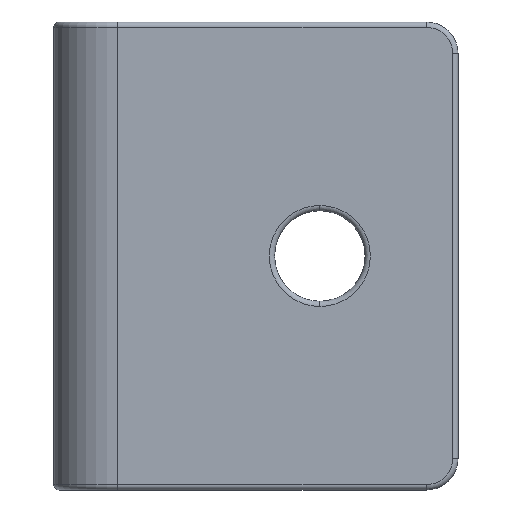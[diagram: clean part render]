
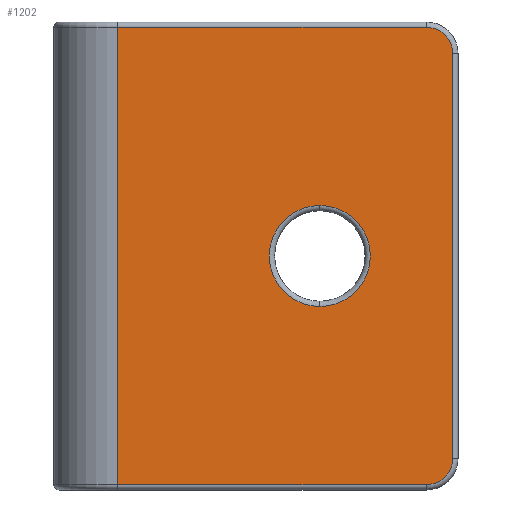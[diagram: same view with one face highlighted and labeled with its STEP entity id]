
A CAD part, front view. The second image highlights one B-rep face of the part: STEP entity #1202.
In plain terms, the highlighted planar face has unit normal (0, -1, 0).
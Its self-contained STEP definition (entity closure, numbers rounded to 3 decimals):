
#17 = VERTEX_POINT ( 'NONE', #709 ) ;
#38 = EDGE_CURVE ( 'NONE', #734, #1065, #882, .T. ) ;
#52 = VECTOR ( 'NONE', #1773, 1000. ) ;
#54 = ORIENTED_EDGE ( 'NONE', *, *, #888, .T. ) ;
#157 = EDGE_CURVE ( 'NONE', #1108, #379, #1544, .T. ) ;
#206 = ORIENTED_EDGE ( 'NONE', *, *, #157, .T. ) ;
#227 = VERTEX_POINT ( 'NONE', #581 ) ;
#256 = CARTESIAN_POINT ( 'NONE',  ( -16.301, -6.074, -44. ) ) ;
#265 = CARTESIAN_POINT ( 'NONE',  ( -10.301, -6.074, -0.5 ) ) ;
#315 = CARTESIAN_POINT ( 'NONE',  ( 21.199, -6.074, -3. ) ) ;
#352 = DIRECTION ( 'NONE',  ( 0., 0., -1. ) ) ;
#360 = ORIENTED_EDGE ( 'NONE', *, *, #985, .T. ) ;
#361 = DIRECTION ( 'NONE',  ( 0., 1., 0. ) ) ;
#379 = VERTEX_POINT ( 'NONE', #481 ) ;
#388 = FACE_BOUND ( 'NONE', #536, .T. ) ;
#426 = CARTESIAN_POINT ( 'NONE',  ( 18.699, -6.074, -3. ) ) ;
#440 = DIRECTION ( 'NONE',  ( 0., 0., -1. ) ) ;
#470 = LINE ( 'NONE', #1016, #701 ) ;
#481 = CARTESIAN_POINT ( 'NONE',  ( 21.199, -6.074, -3. ) ) ;
#536 = EDGE_LOOP ( 'NONE', ( #606, #1245 ) ) ;
#560 = ORIENTED_EDGE ( 'NONE', *, *, #1550, .F. ) ;
#581 = CARTESIAN_POINT ( 'NONE',  ( 18.699, -6.074, -0.5 ) ) ;
#606 = ORIENTED_EDGE ( 'NONE', *, *, #1706, .T. ) ;
#658 = LINE ( 'NONE', #1205, #1127 ) ;
#668 = LINE ( 'NONE', #1219, #52 ) ;
#679 = CIRCLE ( 'NONE', #1685, 2.5 ) ;
#701 = VECTOR ( 'NONE', #1565, 1000. ) ;
#709 = CARTESIAN_POINT ( 'NONE',  ( 18.699, -6.074, -43.5 ) ) ;
#734 = VERTEX_POINT ( 'NONE', #754 ) ;
#754 = CARTESIAN_POINT ( 'NONE',  ( 8.699, -6.074, -17.25 ) ) ;
#797 = DIRECTION ( 'NONE',  ( 0., -1., 0. ) ) ;
#821 = AXIS2_PLACEMENT_3D ( 'NONE', #1586, #361, #904 ) ;
#858 = DIRECTION ( 'NONE',  ( 0., 0., 1. ) ) ;
#882 = CIRCLE ( 'NONE', #1344, 4.75 ) ;
#888 = EDGE_CURVE ( 'NONE', #1771, #17, #658, .T. ) ;
#904 = DIRECTION ( 'NONE',  ( 0., 0., -1. ) ) ;
#932 = FACE_OUTER_BOUND ( 'NONE', #1619, .T. ) ;
#965 = AXIS2_PLACEMENT_3D ( 'NONE', #426, #971, #1521 ) ;
#971 = DIRECTION ( 'NONE',  ( 0., -1., 0. ) ) ;
#985 = EDGE_CURVE ( 'NONE', #227, #1539, #470, .T. ) ;
#1001 = VECTOR ( 'NONE', #858, 1000. ) ;
#1016 = CARTESIAN_POINT ( 'NONE',  ( -16.301, -6.074, -0.5 ) ) ;
#1033 = CARTESIAN_POINT ( 'NONE',  ( 18.699, -6.074, -41. ) ) ;
#1062 = CARTESIAN_POINT ( 'NONE',  ( -10.301, -6.074, -43.5 ) ) ;
#1065 = VERTEX_POINT ( 'NONE', #1729 ) ;
#1098 = ORIENTED_EDGE ( 'NONE', *, *, #1665, .T. ) ;
#1108 = VERTEX_POINT ( 'NONE', #1746 ) ;
#1120 = CARTESIAN_POINT ( 'NONE',  ( 8.699, -6.074, -22. ) ) ;
#1127 = VECTOR ( 'NONE', #1760, 1000. ) ;
#1202 = ADVANCED_FACE ( 'NONE', ( #388, #932 ), #1478, .T. ) ;
#1205 = CARTESIAN_POINT ( 'NONE',  ( -16.301, -6.074, -43.5 ) ) ;
#1219 = CARTESIAN_POINT ( 'NONE',  ( -10.301, -6.074, -44. ) ) ;
#1245 = ORIENTED_EDGE ( 'NONE', *, *, #38, .T. ) ;
#1344 = AXIS2_PLACEMENT_3D ( 'NONE', #1120, #1672, #440 ) ;
#1347 = DIRECTION ( 'NONE',  ( 0., 0., -1. ) ) ;
#1350 = EDGE_CURVE ( 'NONE', #379, #227, #1748, .T. ) ;
#1478 = PLANE ( 'NONE',  #1529 ) ;
#1521 = DIRECTION ( 'NONE',  ( 0., 0., -1. ) ) ;
#1529 = AXIS2_PLACEMENT_3D ( 'NONE', #256, #797, #1347 ) ;
#1539 = VERTEX_POINT ( 'NONE', #265 ) ;
#1544 = LINE ( 'NONE', #315, #1001 ) ;
#1550 = EDGE_CURVE ( 'NONE', #1771, #1539, #668, .T. ) ;
#1565 = DIRECTION ( 'NONE',  ( -1., 0., 0. ) ) ;
#1578 = DIRECTION ( 'NONE',  ( 0., -1., 0. ) ) ;
#1586 = CARTESIAN_POINT ( 'NONE',  ( 8.699, -6.074, -22. ) ) ;
#1596 = CIRCLE ( 'NONE', #821, 4.75 ) ;
#1619 = EDGE_LOOP ( 'NONE', ( #1645, #360, #560, #54, #1098, #206 ) ) ;
#1645 = ORIENTED_EDGE ( 'NONE', *, *, #1350, .T. ) ;
#1665 = EDGE_CURVE ( 'NONE', #17, #1108, #679, .T. ) ;
#1672 = DIRECTION ( 'NONE',  ( 0., 1., 0. ) ) ;
#1685 = AXIS2_PLACEMENT_3D ( 'NONE', #1033, #1578, #352 ) ;
#1706 = EDGE_CURVE ( 'NONE', #1065, #734, #1596, .T. ) ;
#1729 = CARTESIAN_POINT ( 'NONE',  ( 8.699, -6.074, -26.75 ) ) ;
#1746 = CARTESIAN_POINT ( 'NONE',  ( 21.199, -6.074, -41. ) ) ;
#1748 = CIRCLE ( 'NONE', #965, 2.5 ) ;
#1760 = DIRECTION ( 'NONE',  ( 1., 0., 0. ) ) ;
#1771 = VERTEX_POINT ( 'NONE', #1062 ) ;
#1773 = DIRECTION ( 'NONE',  ( 0., 0., 1. ) ) ;
